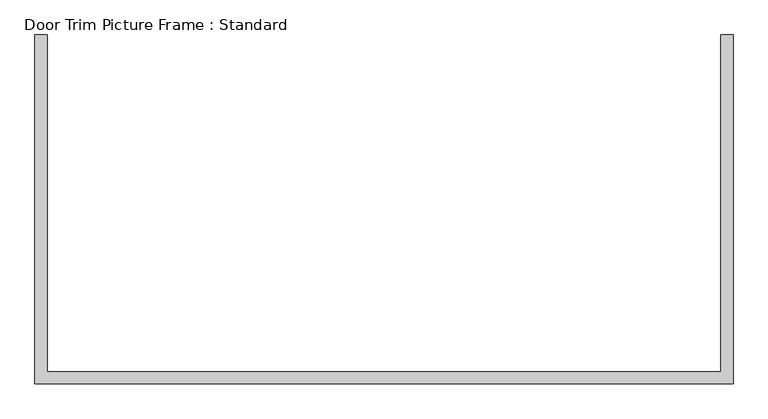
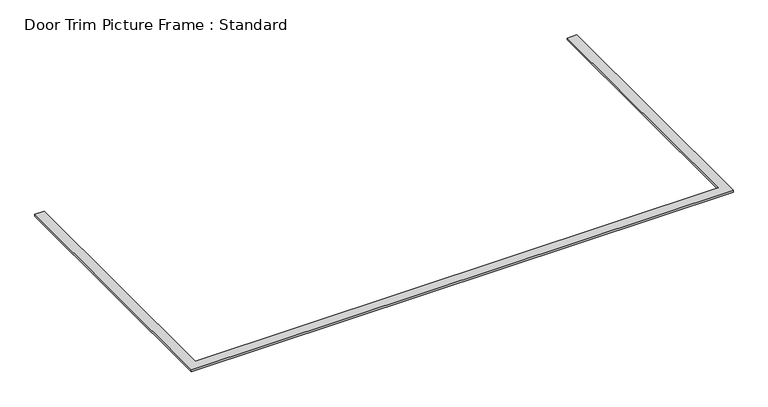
"""IFC4 building model written with IfcOpenShell, lengths in millimetres: proxy geometry, Door Trim Picture Frame : Standard."""

import ifcopenshell
import ifcopenshell.guid

model = None  # the IFC model being written
_history = None  # IfcOwnerHistory: only IFC2X3 demands one
_inside = {}  # id of a spatial element -> (the spatial element, [elements in it])
_under = {}  # id of a project, library or spatial element -> (it, [spatial elements below it])
_declared = {}  # id of a project -> (the project, [libraries it declares])
_typed = {}  # id of a type object -> (the type object, [elements of that type])
_made_of = {}  # id of a material, layer set ... -> (it, [elements and type objects made of it])


def new_model(schema):
    """Start an empty IFC model of exactly this schema.

    Asked for "IFC4X3", IfcOpenShell would pick the latest addendum, in which some entities
    have other attributes; the version numbers below select the first issue.
    IFC2X3 requires an IfcOwnerHistory on every rooted entity: one is made here for all.
    """
    global model, _history
    if schema == "IFC4X3":
        model = ifcopenshell.file(schema_version=(4, 3, 0, 0))
    else:
        model = ifcopenshell.file(schema=schema)
    _inside.clear()
    _under.clear()
    _declared.clear()
    _typed.clear()
    _made_of.clear()
    _history = None
    if model.schema == "IFC2X3":
        org = make("IfcOrganization", Name="unknown")
        user = make(
            "IfcPersonAndOrganization",
            ThePerson=make("IfcPerson", FamilyName="unknown"),
            TheOrganization=org,
        )
        app = make(
            "IfcApplication",
            ApplicationDeveloper=org,
            Version="unknown",
            ApplicationFullName="unknown",
            ApplicationIdentifier="unknown",
        )
        _history = make(
            "IfcOwnerHistory",
            OwningUser=user,
            OwningApplication=app,
            ChangeAction="ADDED",
            CreationDate=0,
        )
    return model


def make(cls, **values):
    """One entity of the class cls with the attributes given. An attribute that is None is left unset."""
    return model.create_entity(
        cls, **{name: value for name, value in values.items() if value is not None}
    )


def rooted(cls, **values):
    """An entity with a GlobalId (a new one), such as an element, a storey or a relation."""
    return make(cls, GlobalId=ifcopenshell.guid.new(), OwnerHistory=_history, **values)


def si_unit(unit_type, name, prefix=None):
    """IfcSIUnit, for example si_unit("LENGTHUNIT", "METRE", prefix="MILLI")."""
    return make("IfcSIUnit", UnitType=unit_type, Prefix=prefix, Name=name)


def assignment(units):
    """IfcUnitAssignment: the units of a project."""
    return None if units is None else make("IfcUnitAssignment", Units=units)


def point(xyz):
    """IfcCartesianPoint."""
    return None if xyz is None else make("IfcCartesianPoint", Coordinates=xyz)


def direction(xyz):
    """IfcDirection."""
    return None if xyz is None else make("IfcDirection", DirectionRatios=xyz)


def frame(location, z_axis=None, x_axis=None):
    """IfcAxis2Placement3D, a coordinate frame: its origin and axes. An axis left out is left unset."""
    return make(
        "IfcAxis2Placement3D",
        Location=point(location),
        Axis=direction(z_axis),
        RefDirection=direction(x_axis),
    )


def origin():
    """The frame at (0, 0, 0) with its axes left unset."""
    return frame((0.0, 0.0, 0.0))


def origin_with_axes():
    """The frame at (0, 0, 0) with the z axis (0, 0, 1) and the x axis (1, 0, 0) written out."""
    return frame((0.0, 0.0, 0.0), z_axis=(0.0, 0.0, 1.0), x_axis=(1.0, 0.0, 0.0))


def place(relative_to, where):
    """IfcLocalPlacement: puts the frame where relative to a parent placement (None: the world)."""
    return make(
        "IfcLocalPlacement", PlacementRelTo=relative_to, RelativePlacement=where
    )


def context(
    kind, dimensions, precision=None, world=None, true_north=None, identifier=None
):
    """IfcGeometricRepresentationContext, for example the 3D "Model" context."""
    return make(
        "IfcGeometricRepresentationContext",
        ContextIdentifier=identifier,
        ContextType=kind,
        CoordinateSpaceDimension=dimensions,
        Precision=precision,
        WorldCoordinateSystem=world,
        TrueNorth=true_north,
    )


def project(units=None, contexts=None):
    """IfcProject with its units and contexts."""
    return rooted(
        "IfcProject",
        Name="project",
        RepresentationContexts=contexts,
        UnitsInContext=assignment(units),
    )


def spatial(cls, under=None, at=None, **own):
    """A site, building, storey or space (cls), placed at a placement, below another one or the project."""
    s = rooted(cls, ObjectPlacement=at, **own)
    if under is not None:
        _under.setdefault(under.id(), (under, []))[1].append(s)
    return s


def polyline(points):
    """IfcPolyline through the points."""
    return make("IfcPolyline", Points=[point(p) for p in points])


def outline(outer, holes=None, kind="AREA"):
    """IfcArbitraryClosedProfileDef: a profile drawn as a closed curve; with holes, ...WithVoids."""
    if holes is None:
        return make("IfcArbitraryClosedProfileDef", ProfileType=kind, OuterCurve=outer)
    return make(
        "IfcArbitraryProfileDefWithVoids",
        ProfileType=kind,
        OuterCurve=outer,
        InnerCurves=holes,
    )


def extrude(swept, where, along, depth):
    """IfcExtrudedAreaSolid: the profile swept, set in the frame where, extruded along a direction by depth."""
    return make(
        "IfcExtrudedAreaSolid",
        SweptArea=swept,
        Position=where,
        ExtrudedDirection=direction(along),
        Depth=depth,
    )


def shape(context_of_items, identifier, shape_type, items):
    """IfcShapeRepresentation: the items that make up one representation, for example the "Body"."""
    return make(
        "IfcShapeRepresentation",
        ContextOfItems=context_of_items,
        RepresentationIdentifier=identifier,
        RepresentationType=shape_type,
        Items=items,
    )


def source(mapping_origin, context_of_items, identifier, shape_type, items):
    """IfcRepresentationMap: a shape defined once, which mapped items show again and again."""
    return make(
        "IfcRepresentationMap",
        MappingOrigin=mapping_origin,
        MappedRepresentation=shape(context_of_items, identifier, shape_type, items),
    )


def transform(
    local_origin,
    x_axis=None,
    y_axis=None,
    z_axis=None,
    scale=None,
    scale2=None,
    scale3=None,
    uniform=True,
):
    """IfcCartesianTransformationOperator3D, or its non-uniform kind. x_axis, y_axis, z_axis: its Axis1, 2, 3."""
    if uniform:
        return make(
            "IfcCartesianTransformationOperator3D",
            Axis1=direction(x_axis),
            Axis2=direction(y_axis),
            LocalOrigin=point(local_origin),
            Scale=scale,
            Axis3=direction(z_axis),
        )
    return make(
        "IfcCartesianTransformationOperator3DnonUniform",
        Axis1=direction(x_axis),
        Axis2=direction(y_axis),
        LocalOrigin=point(local_origin),
        Scale=scale,
        Axis3=direction(z_axis),
        Scale2=scale2,
        Scale3=scale3,
    )


def mapped(mapping_source, mapping_target):
    """IfcMappedItem: shows the shape of a source again, moved by a transform."""
    return make(
        "IfcMappedItem", MappingSource=mapping_source, MappingTarget=mapping_target
    )


def made_of(thing, what):
    """Note that an element or type object is made of a material, layer set ...; save() writes the relation."""
    if what is not None:
        _made_of.setdefault(what.id(), (what, []))[1].append(thing)
    return thing


def element(
    cls,
    number,
    at=None,
    inside=None,
    cuts=None,
    type_object=None,
    material=None,
    context=None,
    identifier="Body",
    shape_type=None,
    held_by="IfcProductDefinitionShape",
    body=None,
    shapes=None,
    **own,
):
    """One element of the class cls, such as IfcWall. Its Tag is "e" and its number.

    at: its placement. inside: the storey or other place that contains it. cuts: it is an
    opening in that element (IfcRelVoidsElement). A single representation is given by context,
    identifier, shape_type and body (its items); several are given by shapes. held_by: the class
    of the entity that holds the representations. save() writes the other relations.
    """
    e = rooted(cls, Tag="e%d" % number, ObjectPlacement=at, **own)
    if body is not None:
        shapes = [shape(context, identifier, shape_type, body)]
    if shapes is not None:
        e.Representation = make(held_by, Representations=shapes)
    if inside is not None:
        _inside.setdefault(inside.id(), (inside, []))[1].append(e)
    if cuts is not None:
        rooted(
            "IfcRelVoidsElement", RelatingBuildingElement=cuts, RelatedOpeningElement=e
        )
    if type_object is not None:
        _typed.setdefault(type_object.id(), (type_object, []))[1].append(e)
    return made_of(e, material)


def aggregate(whole, parts):
    """IfcRelAggregates: a whole, such as a stair, and the parts it consists of."""
    return rooted("IfcRelAggregates", RelatingObject=whole, RelatedObjects=parts)


def save(model, path):
    """Write the relations noted so far, then the file.

    IfcRelAggregates (storeys below a building ...), IfcRelContainedInSpatialStructure (elements
    in a storey), IfcRelDefinesByType, IfcRelAssociatesMaterial and IfcRelDeclares: one each for
    every whole, place, type object, material and project.
    """
    for whole, parts in _under.values():
        aggregate(whole, parts)
    for where, things in _inside.values():
        rooted(
            "IfcRelContainedInSpatialStructure",
            RelatedElements=things,
            RelatingStructure=where,
        )
    for kind, things in _typed.values():
        rooted("IfcRelDefinesByType", RelatedObjects=things, RelatingType=kind)
    for what, things in _made_of.values():
        rooted("IfcRelAssociatesMaterial", RelatedObjects=things, RelatingMaterial=what)
    for by, libraries in _declared.values():
        rooted("IfcRelDeclares", RelatingContext=by, RelatedDefinitions=libraries)
    model.write(path)


def door_trim_picture_frame_standard_156ac413(model_context):
    return source(origin(), model_context, "Body", "SweptSolid", [
        extrude(outline(polyline([(-2444.75, 2463.8), (-2444.75, 19.05), (2444.75, 19.05), (2444.75, 2463.8), (2533.65, 2463.8), (2533.65, -69.85), (-2533.65, -69.85), (-2533.65, 2463.8), (-2444.75, 2463.8)])), origin_with_axes(), (0.0, 0.0, 1.0), 19.05),
    ])


if __name__ == "__main__":
    model = new_model("IFC4")
    model_context = context("Model", 3, world=origin())
    ifc_project = project(units=[si_unit("LENGTHUNIT", "METRE", prefix="MILLI")], contexts=[model_context])
    site = spatial("IfcSite", under=ifc_project)
    building = spatial("IfcBuilding", under=site)
    placement = place(None, origin())
    door_trim_picture_frame_standard_shape = door_trim_picture_frame_standard_156ac413(model_context)
    element("IfcBuildingElementProxy", 1, Name="Door Trim Picture Frame : Standard", ObjectType="Door Trim Picture Frame : Standard", at=placement, inside=building, context=model_context, shape_type="MappedRepresentation", body=[
        mapped(door_trim_picture_frame_standard_shape, transform((0.0, 0.0, 0.0), x_axis=(1.0, 0.0, 0.0), y_axis=(0.0, 1.0, 0.0), z_axis=(0.0, 0.0, 1.0))),
    ])
    save(model, "model.ifc")
